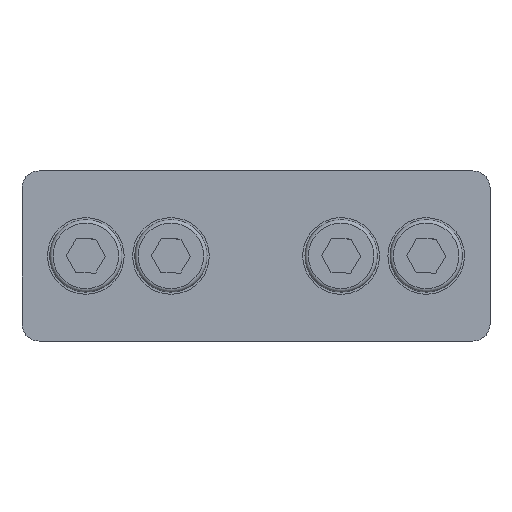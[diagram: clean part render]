
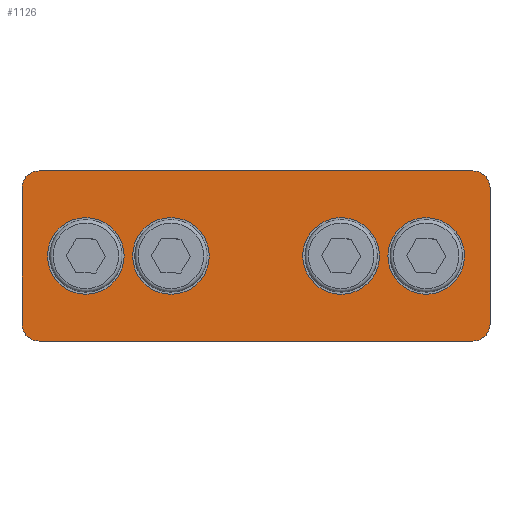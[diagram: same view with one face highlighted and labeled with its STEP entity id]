
A CAD part, top view. The second image highlights one B-rep face of the part: STEP entity #1126.
In plain terms, the highlighted planar face has unit normal (0, 0, 1).
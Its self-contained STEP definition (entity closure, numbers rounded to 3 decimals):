
#82=FACE_BOUND('',#222,.T.);
#83=FACE_BOUND('',#223,.T.);
#84=FACE_BOUND('',#224,.T.);
#85=FACE_BOUND('',#225,.T.);
#108=PLANE('',#1271);
#148=FACE_OUTER_BOUND('',#221,.T.);
#221=EDGE_LOOP('',(#837,#838,#839,#840,#841,#842,#843,#844));
#222=EDGE_LOOP('',(#845));
#223=EDGE_LOOP('',(#846));
#224=EDGE_LOOP('',(#847));
#225=EDGE_LOOP('',(#848));
#298=LINE('',#1774,#384);
#304=LINE('',#1803,#390);
#308=LINE('',#1826,#394);
#309=LINE('',#1828,#395);
#384=VECTOR('',#1400,10.);
#390=VECTOR('',#1428,10.);
#394=VECTOR('',#1458,10.);
#395=VECTOR('',#1461,10.);
#466=CIRCLE('',#1243,2.);
#475=CIRCLE('',#1255,2.);
#476=CIRCLE('',#1258,2.);
#477=CIRCLE('',#1260,2.);
#478=CIRCLE('',#1262,2.75);
#479=CIRCLE('',#1264,2.75);
#480=CIRCLE('',#1266,2.75);
#481=CIRCLE('',#1268,2.75);
#529=VERTEX_POINT('',#1761);
#530=VERTEX_POINT('',#1762);
#534=VERTEX_POINT('',#1772);
#544=VERTEX_POINT('',#1796);
#545=VERTEX_POINT('',#1797);
#546=VERTEX_POINT('',#1802);
#547=VERTEX_POINT('',#1806);
#548=VERTEX_POINT('',#1810);
#549=VERTEX_POINT('',#1814);
#550=VERTEX_POINT('',#1817);
#551=VERTEX_POINT('',#1820);
#552=VERTEX_POINT('',#1823);
#636=EDGE_CURVE('',#529,#530,#466,.T.);
#642=EDGE_CURVE('',#534,#529,#298,.T.);
#653=EDGE_CURVE('',#544,#545,#475,.T.);
#656=EDGE_CURVE('',#545,#546,#304,.T.);
#658=EDGE_CURVE('',#546,#547,#476,.T.);
#660=EDGE_CURVE('',#548,#534,#477,.T.);
#662=EDGE_CURVE('',#549,#549,#478,.T.);
#663=EDGE_CURVE('',#550,#550,#479,.T.);
#664=EDGE_CURVE('',#551,#551,#480,.T.);
#665=EDGE_CURVE('',#552,#552,#481,.T.);
#666=EDGE_CURVE('',#530,#544,#308,.T.);
#667=EDGE_CURVE('',#547,#548,#309,.T.);
#837=ORIENTED_EDGE('',*,*,#636,.F.);
#838=ORIENTED_EDGE('',*,*,#642,.F.);
#839=ORIENTED_EDGE('',*,*,#660,.F.);
#840=ORIENTED_EDGE('',*,*,#667,.F.);
#841=ORIENTED_EDGE('',*,*,#658,.F.);
#842=ORIENTED_EDGE('',*,*,#656,.F.);
#843=ORIENTED_EDGE('',*,*,#653,.F.);
#844=ORIENTED_EDGE('',*,*,#666,.F.);
#845=ORIENTED_EDGE('',*,*,#662,.T.);
#846=ORIENTED_EDGE('',*,*,#663,.T.);
#847=ORIENTED_EDGE('',*,*,#664,.T.);
#848=ORIENTED_EDGE('',*,*,#665,.T.);
#1126=ADVANCED_FACE('',(#148,#82,#83,#84,#85),#108,.T.);
#1243=AXIS2_PLACEMENT_3D('',#1763,#1390,#1391);
#1255=AXIS2_PLACEMENT_3D('',#1798,#1422,#1423);
#1258=AXIS2_PLACEMENT_3D('',#1807,#1432,#1433);
#1260=AXIS2_PLACEMENT_3D('',#1811,#1437,#1438);
#1262=AXIS2_PLACEMENT_3D('',#1815,#1442,#1443);
#1264=AXIS2_PLACEMENT_3D('',#1818,#1446,#1447);
#1266=AXIS2_PLACEMENT_3D('',#1821,#1450,#1451);
#1268=AXIS2_PLACEMENT_3D('',#1824,#1454,#1455);
#1271=AXIS2_PLACEMENT_3D('',#1829,#1462,#1463);
#1390=DIRECTION('center_axis',(0.,0.,-1.));
#1391=DIRECTION('ref_axis',(-0.707,-0.707,0.));
#1400=DIRECTION('',(-1.,0.,0.));
#1422=DIRECTION('center_axis',(0.,0.,-1.));
#1423=DIRECTION('ref_axis',(-0.707,0.707,0.));
#1428=DIRECTION('',(1.,0.,0.));
#1432=DIRECTION('center_axis',(0.,0.,-1.));
#1433=DIRECTION('ref_axis',(0.707,0.707,0.));
#1437=DIRECTION('center_axis',(0.,0.,-1.));
#1438=DIRECTION('ref_axis',(0.707,-0.707,0.));
#1442=DIRECTION('center_axis',(0.,0.,-1.));
#1443=DIRECTION('ref_axis',(1.,0.,0.));
#1446=DIRECTION('center_axis',(0.,0.,-1.));
#1447=DIRECTION('ref_axis',(1.,0.,0.));
#1450=DIRECTION('center_axis',(0.,0.,-1.));
#1451=DIRECTION('ref_axis',(1.,0.,0.));
#1454=DIRECTION('center_axis',(0.,0.,-1.));
#1455=DIRECTION('ref_axis',(1.,0.,0.));
#1458=DIRECTION('',(0.,1.,0.));
#1461=DIRECTION('',(0.,-1.,0.));
#1462=DIRECTION('center_axis',(0.,0.,1.));
#1463=DIRECTION('ref_axis',(1.,0.,0.));
#1761=CARTESIAN_POINT('',(-53.,0.,3.));
#1762=CARTESIAN_POINT('',(-55.,2.,3.));
#1763=CARTESIAN_POINT('Origin',(-53.,2.,3.));
#1772=CARTESIAN_POINT('',(-2.,0.,3.));
#1774=CARTESIAN_POINT('',(0.,0.,3.));
#1796=CARTESIAN_POINT('',(-55.,18.,3.));
#1797=CARTESIAN_POINT('',(-53.,20.,3.));
#1798=CARTESIAN_POINT('Origin',(-53.,18.,3.));
#1802=CARTESIAN_POINT('',(-2.,20.,3.));
#1803=CARTESIAN_POINT('',(-55.,20.,3.));
#1806=CARTESIAN_POINT('',(0.,18.,3.));
#1807=CARTESIAN_POINT('Origin',(-2.,18.,3.));
#1810=CARTESIAN_POINT('',(0.,2.,3.));
#1811=CARTESIAN_POINT('Origin',(-2.,2.,3.));
#1814=CARTESIAN_POINT('',(-4.75,10.,3.));
#1815=CARTESIAN_POINT('Origin',(-7.5,10.,3.));
#1817=CARTESIAN_POINT('',(-14.75,10.,3.));
#1818=CARTESIAN_POINT('Origin',(-17.5,10.,3.));
#1820=CARTESIAN_POINT('',(-34.75,10.,3.));
#1821=CARTESIAN_POINT('Origin',(-37.5,10.,3.));
#1823=CARTESIAN_POINT('',(-44.75,10.,3.));
#1824=CARTESIAN_POINT('Origin',(-47.5,10.,3.));
#1826=CARTESIAN_POINT('',(-55.,0.,3.));
#1828=CARTESIAN_POINT('',(0.,20.,3.));
#1829=CARTESIAN_POINT('Origin',(-27.5,10.,3.));
